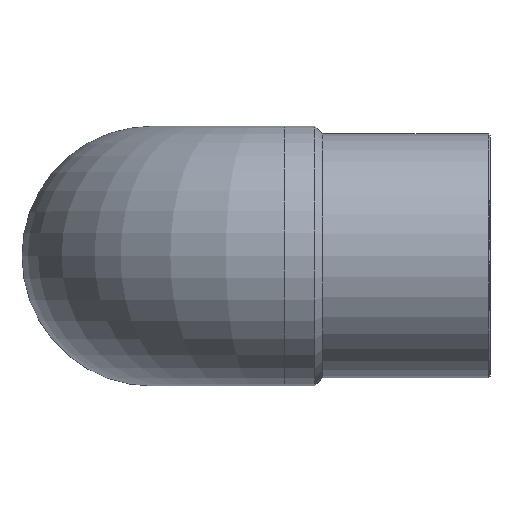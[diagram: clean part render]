
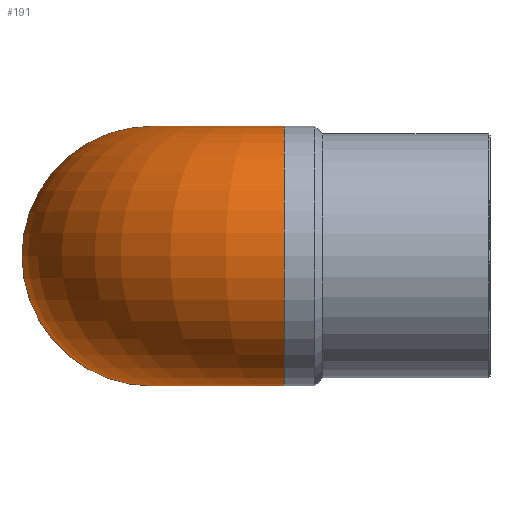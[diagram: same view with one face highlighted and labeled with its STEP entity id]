
A CAD part, top view. The second image highlights one B-rep face of the part: STEP entity #191.
In plain terms, the highlighted toroidal (fillet/blend) face has major radius 76 mm and minor radius 74.5 mm.
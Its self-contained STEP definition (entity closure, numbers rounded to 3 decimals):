
#20=TOROIDAL_SURFACE('',#231,76.,74.5);
#59=ORIENTED_EDGE('',*,*,#77,.F.);
#60=ORIENTED_EDGE('',*,*,#79,.T.);
#77=EDGE_CURVE('',#96,#96,#114,.F.);
#79=EDGE_CURVE('',#98,#98,#116,.F.);
#96=VERTEX_POINT('',#312);
#98=VERTEX_POINT('',#318);
#114=CIRCLE('',#217,74.5);
#116=CIRCLE('',#221,74.5);
#142=EDGE_LOOP('',(#59));
#143=EDGE_LOOP('',(#60));
#169=FACE_BOUND('',#142,.T.);
#170=FACE_BOUND('',#143,.T.);
#191=ADVANCED_FACE('',(#169,#170),#20,.T.);
#217=AXIS2_PLACEMENT_3D('',#311,#256,#257);
#221=AXIS2_PLACEMENT_3D('',#317,#264,#265);
#231=AXIS2_PLACEMENT_3D('',#365,#284,#285);
#256=DIRECTION('',(-1.,0.,0.));
#257=DIRECTION('',(0.,0.,-1.));
#264=DIRECTION('',(0.,0.,-1.));
#265=DIRECTION('',(1.,0.,0.));
#284=DIRECTION('',(0.,1.,0.));
#285=DIRECTION('',(0.,0.,1.));
#311=CARTESIAN_POINT('',(76.,0.,194.));
#312=CARTESIAN_POINT('',(76.,0.,119.5));
#317=CARTESIAN_POINT('',(0.,0.,118.));
#318=CARTESIAN_POINT('',(74.5,0.,118.));
#365=CARTESIAN_POINT('',(76.,0.,118.));
